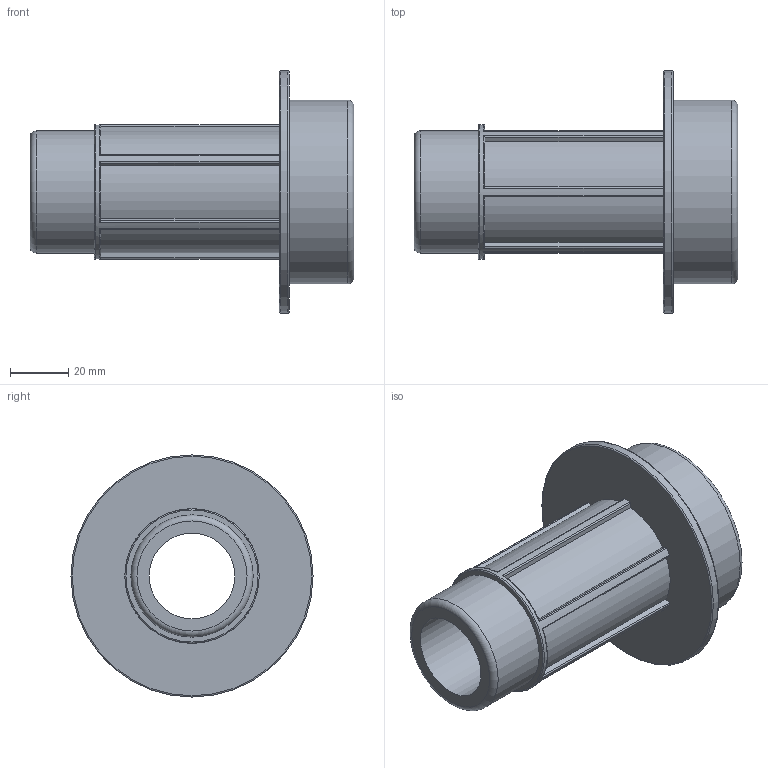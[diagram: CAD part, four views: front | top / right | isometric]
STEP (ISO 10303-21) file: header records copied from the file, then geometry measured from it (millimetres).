
FILE_DESCRIPTION(/* description */ ('PLASSON THREADED MALE ADAPTOR 63-1.1/4"'),/* implementation_level */ '2;1');
FILE_NAME(/* name */ 'C:\Dropbox\KIMPROJECTS-Inventor\99-16-3568-Processing\Silver+MF ISRAEL\078901\078901063013.ipt.stp',/* time_stamp */ '2018-04-09T13:02:04+03:00',/* author */ ('KIM'),/* organization */ (''),/* preprocessor_version */ 'ST-DEVELOPER v15.6',/* originating_system */ 'Autodesk Inventor 2015',/* authorisation */ '');
FILE_SCHEMA (('AUTOMOTIVE_DESIGN { 1 0 10303 214 3 1 1 }'));
Length unit declared in the file: millimetre
Products named in the file (1): 078901063013
Bounding box: 111 x 83 x 83 mm (x, y, z)
Volume: 132959.2 mm3; surface area: 37728.1 mm2
Topology: 1 solids, 1 shells, 57 faces, 151 edges, 99 vertices
Faces by surface type: cylinder 23, plane 23, torus 11
Full cylindrical faces by diameter (mm): 29.337 x1, 41.91 x1, 46.101 x1, 63 x1, 83 x1
Entity records: 1894 total; most frequent: CARTESIAN_POINT 488, DIRECTION 288, ORIENTED_EDGE 280, EDGE_CURVE 140, AXIS2_PLACEMENT_3D 114, VERTEX_POINT 98, EDGE_LOOP 72, LINE 60
